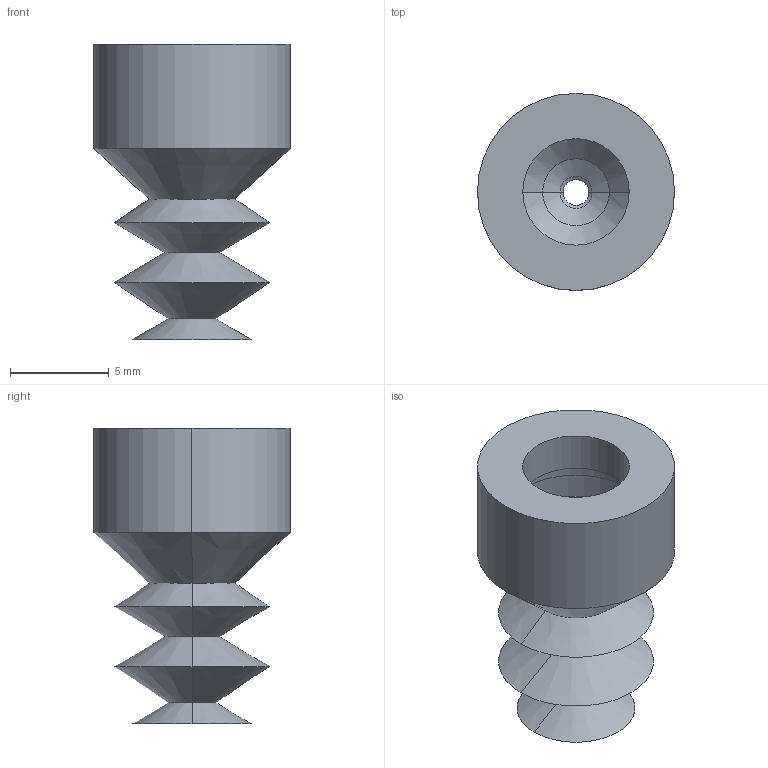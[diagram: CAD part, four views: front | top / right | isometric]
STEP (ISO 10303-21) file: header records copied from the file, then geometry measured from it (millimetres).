
FILE_DESCRIPTION (( 'STEP AP214' ), '1' );
FILE_NAME ('VSH3-S6.STEP', '2019-12-02T07:54:17', ( '微软用户' ), ( '微软中国' ), 'SwSTEP 2.0', 'SolidWorks 2016', '' );
FILE_SCHEMA (( 'AUTOMOTIVE_DESIGN' ));
Length unit declared in the file: millimetre
Products named in the file (1): VSH3-S6
Bounding box: 10 x 10 x 15 mm (x, y, z)
Volume: 255.9 mm3; surface area: 959.3 mm2
Topology: 1 solids, 1 shells, 36 faces, 72 edges, 40 vertices
Faces by surface type: cone 24, cylinder 8, plane 4
Entity records: 962 total; most frequent: DIRECTION 186, CARTESIAN_POINT 149, ORIENTED_EDGE 144, AXIS2_PLACEMENT_3D 77, EDGE_CURVE 72, VERTEX_POINT 40, CIRCLE 40, EDGE_LOOP 40
